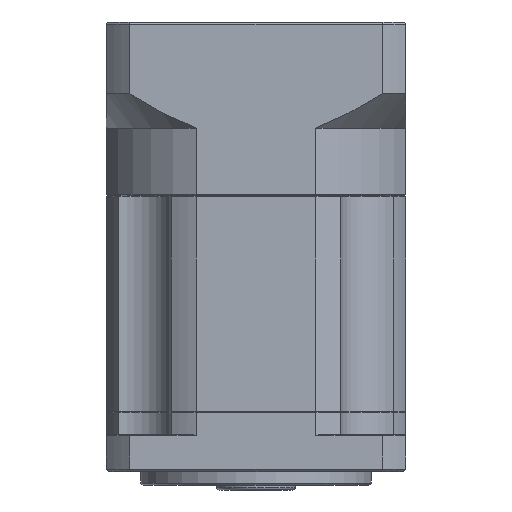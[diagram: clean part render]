
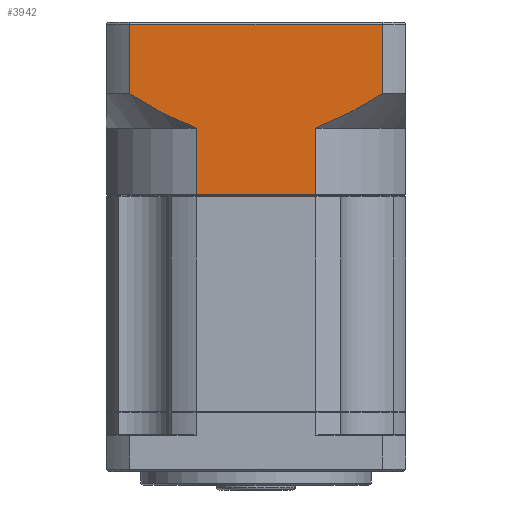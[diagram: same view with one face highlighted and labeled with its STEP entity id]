
A CAD part, front view. The second image highlights one B-rep face of the part: STEP entity #3942.
In plain terms, the highlighted planar face has unit normal (0, -1, 0).
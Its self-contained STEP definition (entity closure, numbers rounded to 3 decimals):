
#3349 = VERTEX_POINT ( 'NONE', #20913 ) ;
#3942 = ADVANCED_FACE ( 'NONE', ( #4728 ), #81661, .F. ) ;
#4261 = VECTOR ( 'NONE', #37125, 1000. ) ;
#4728 = FACE_OUTER_BOUND ( 'NONE', #74815, .T. ) ;
#6967 = B_SPLINE_CURVE_WITH_KNOTS ( 'NONE', 3,
 ( #49920, #49937, #49694, #49606, #49592, #49464, #49378, #60163, #42750, #56042 ),
 .UNSPECIFIED., .F., .F.,
 ( 4, 2, 2, 2, 4 ),
 ( 0.101, 0.104, 0.106, 0.11, 0.118 ),
 .UNSPECIFIED. ) ;
#13089 = VERTEX_POINT ( 'NONE', #50522 ) ;
#16275 = AXIS2_PLACEMENT_3D ( 'NONE', #81077, #80978, #80868 ) ;
#19936 = CARTESIAN_POINT ( 'NONE',  ( 33.2, -33.003, 60.803 ) ) ;
#19968 = CARTESIAN_POINT ( 'NONE',  ( 35.739, -33.003, 61.746 ) ) ;
#20044 = CARTESIAN_POINT ( 'NONE',  ( 38.191, -33.003, 62.89 ) ) ;
#20068 = CARTESIAN_POINT ( 'NONE',  ( 41.785, -33.003, 64.799 ) ) ;
#20187 = CARTESIAN_POINT ( 'NONE',  ( 42.97, -33.003, 65.469 ) ) ;
#20303 = CARTESIAN_POINT ( 'NONE',  ( 45.306, -33.003, 66.854 ) ) ;
#20609 = CARTESIAN_POINT ( 'NONE',  ( 47.596, -33.003, 68.303 ) ) ;
#20685 = CARTESIAN_POINT ( 'NONE',  ( 46.458, -33.003, 67.57 ) ) ;
#20913 = CARTESIAN_POINT ( 'NONE',  ( 33.2, -33.003, 60.803 ) ) ;
#24198 = VERTEX_POINT ( 'NONE', #86287 ) ;
#26469 = EDGE_CURVE ( 'NONE', #99701, #48169, #39380, .T. ) ;
#27233 = EDGE_CURVE ( 'NONE', #99701, #24198, #36627, .T. ) ;
#27524 = EDGE_CURVE ( 'NONE', #31123, #24198, #74175, .T. ) ;
#27810 = EDGE_CURVE ( 'NONE', #13089, #31123, #6967, .T. ) ;
#28807 = EDGE_CURVE ( 'NONE', #85068, #13089, #71371, .T. ) ;
#29427 = EDGE_CURVE ( 'NONE', #85068, #68361, #34909, .T. ) ;
#29713 = EDGE_CURVE ( 'NONE', #3349, #68361, #84395, .T. ) ;
#30124 = EDGE_CURVE ( 'NONE', #48169, #3349, #47057, .T. ) ;
#31123 = VERTEX_POINT ( 'NONE', #67294 ) ;
#34270 = VECTOR ( 'NONE', #74550, 1000. ) ;
#34909 = LINE ( 'NONE', #55920, #76085 ) ;
#36627 = LINE ( 'NONE', #74964, #34270 ) ;
#36908 = VECTOR ( 'NONE', #50016, 1000. ) ;
#37125 = DIRECTION ( 'NONE',  ( 0., 0., -1. ) ) ;
#38350 = CARTESIAN_POINT ( 'NONE',  ( 33.2, -33.003, 60.803 ) ) ;
#39380 = LINE ( 'NONE', #62940, #36908 ) ;
#42750 = CARTESIAN_POINT ( 'NONE',  ( -4.907, -33.003, 66.841 ) ) ;
#47057 = B_SPLINE_CURVE_WITH_KNOTS ( 'NONE', 3,
 ( #20609, #20685, #20303, #20187, #20068, #20044, #19968, #19936 ),
 .UNSPECIFIED., .F., .F.,
 ( 4, 2, 2, 4 ),
 ( 0.059, 0.063, 0.067, 0.075 ),
 .UNSPECIFIED. ) ;
#48169 = VERTEX_POINT ( 'NONE', #82271 ) ;
#49378 = CARTESIAN_POINT ( 'NONE',  ( 0.988, -33.003, 63.548 ) ) ;
#49464 = CARTESIAN_POINT ( 'NONE',  ( 2.201, -33.003, 62.943 ) ) ;
#49592 = CARTESIAN_POINT ( 'NONE',  ( 4.054, -33.003, 62.093 ) ) ;
#49606 = CARTESIAN_POINT ( 'NONE',  ( 4.678, -33.003, 61.82 ) ) ;
#49694 = CARTESIAN_POINT ( 'NONE',  ( 5.938, -33.003, 61.294 ) ) ;
#49920 = CARTESIAN_POINT ( 'NONE',  ( 7.22, -33.003, 60.803 ) ) ;
#49937 = CARTESIAN_POINT ( 'NONE',  ( 6.577, -33.003, 61.042 ) ) ;
#50016 = DIRECTION ( 'NONE',  ( 0., 0., -1. ) ) ;
#50522 = CARTESIAN_POINT ( 'NONE',  ( 7.22, -33.003, 60.803 ) ) ;
#51854 = ORIENTED_EDGE ( 'NONE', *, *, #26469, .F. ) ;
#52181 = ORIENTED_EDGE ( 'NONE', *, *, #27233, .T. ) ;
#53217 = VECTOR ( 'NONE', #72344, 1000. ) ;
#54534 = ORIENTED_EDGE ( 'NONE', *, *, #27524, .F. ) ;
#55791 = DIRECTION ( 'NONE',  ( 1., 0., 0. ) ) ;
#55920 = CARTESIAN_POINT ( 'NONE',  ( 52.71, -33.003, 46.392 ) ) ;
#56042 = CARTESIAN_POINT ( 'NONE',  ( -7.176, -33.003, 68.303 ) ) ;
#56738 = ORIENTED_EDGE ( 'NONE', *, *, #27810, .F. ) ;
#59477 = ORIENTED_EDGE ( 'NONE', *, *, #28807, .F. ) ;
#59745 = ORIENTED_EDGE ( 'NONE', *, *, #29427, .T. ) ;
#60163 = CARTESIAN_POINT ( 'NONE',  ( -2.592, -33.003, 65.453 ) ) ;
#62940 = CARTESIAN_POINT ( 'NONE',  ( 47.596, -33.003, 65.803 ) ) ;
#64200 = ORIENTED_EDGE ( 'NONE', *, *, #29713, .F. ) ;
#64333 = DIRECTION ( 'NONE',  ( 0., 0., 1. ) ) ;
#64888 = CARTESIAN_POINT ( 'NONE',  ( -7.176, -33.003, 65.803 ) ) ;
#65912 = ORIENTED_EDGE ( 'NONE', *, *, #30124, .F. ) ;
#67294 = CARTESIAN_POINT ( 'NONE',  ( -7.176, -33.003, 68.303 ) ) ;
#68361 = VERTEX_POINT ( 'NONE', #76437 ) ;
#71371 = LINE ( 'NONE', #74319, #53217 ) ;
#71921 = CARTESIAN_POINT ( 'NONE',  ( 7.22, -33.003, 46.392 ) ) ;
#72344 = DIRECTION ( 'NONE',  ( 0., 0., 1. ) ) ;
#74175 = LINE ( 'NONE', #64888, #92137 ) ;
#74319 = CARTESIAN_POINT ( 'NONE',  ( 7.22, -33.003, 60.803 ) ) ;
#74550 = DIRECTION ( 'NONE',  ( -1., 0., 0. ) ) ;
#74815 = EDGE_LOOP ( 'NONE', ( #51854, #52181, #54534, #56738, #59477, #59745, #64200, #65912 ) ) ;
#74964 = CARTESIAN_POINT ( 'NONE',  ( -7.176, -33.003, 83.303 ) ) ;
#76085 = VECTOR ( 'NONE', #55791, 1000. ) ;
#76437 = CARTESIAN_POINT ( 'NONE',  ( 33.2, -33.003, 46.392 ) ) ;
#80683 = CARTESIAN_POINT ( 'NONE',  ( 47.596, -33.003, 83.303 ) ) ;
#80868 = DIRECTION ( 'NONE',  ( -1., 0., 0. ) ) ;
#80978 = DIRECTION ( 'NONE',  ( 0., 1., 0. ) ) ;
#81077 = CARTESIAN_POINT ( 'NONE',  ( 52.71, -33.003, 83.803 ) ) ;
#81661 = PLANE ( 'NONE',  #16275 ) ;
#82271 = CARTESIAN_POINT ( 'NONE',  ( 47.596, -33.003, 68.303 ) ) ;
#84395 = LINE ( 'NONE', #38350, #4261 ) ;
#85068 = VERTEX_POINT ( 'NONE', #71921 ) ;
#86287 = CARTESIAN_POINT ( 'NONE',  ( -7.176, -33.003, 83.303 ) ) ;
#92137 = VECTOR ( 'NONE', #64333, 1000. ) ;
#99701 = VERTEX_POINT ( 'NONE', #80683 ) ;
